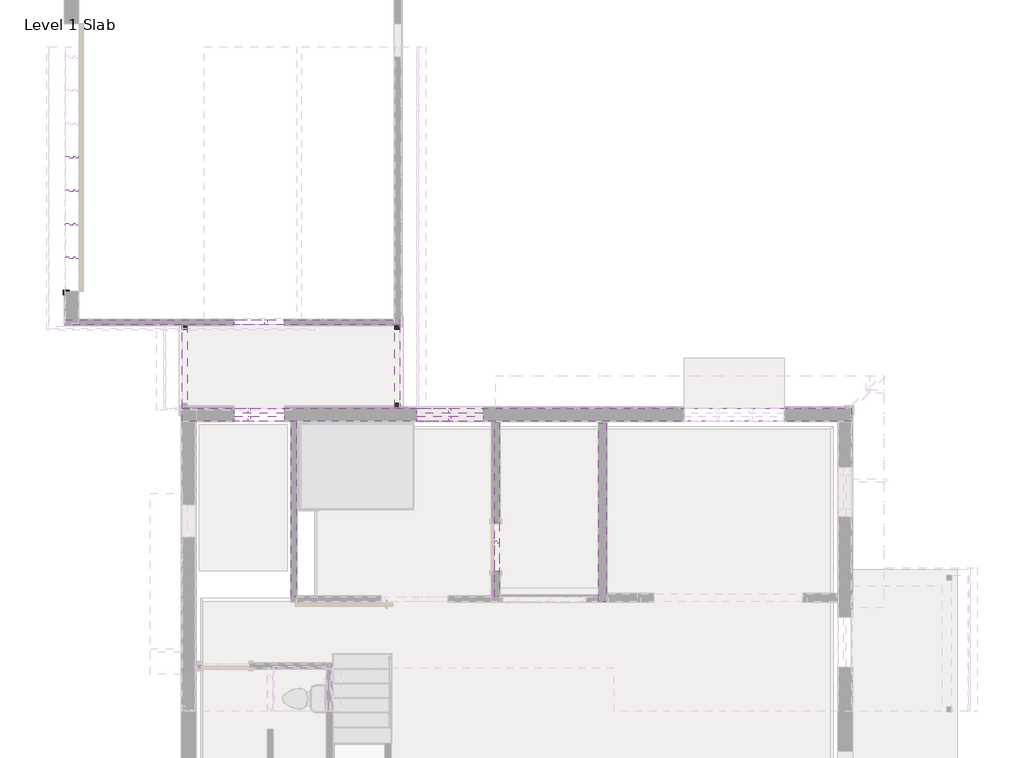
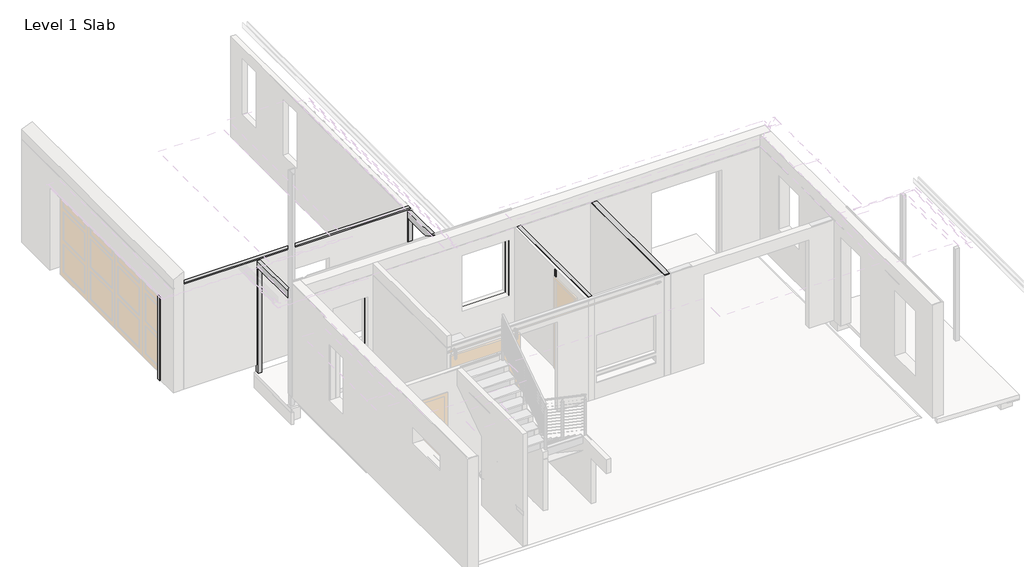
# One storey, part 8 of 11: 106 beams, 12 columns.
"""IFC4 building model written with IfcOpenShell, lengths in millimetres."""

from ifc_helpers import new_model, si_unit, frame, origin, origin_with_axes, place, context, project, spatial, polyline, outline, extrude, transform, mapped, element, save
from components import dimension_lumber_2x4_8b234c55, dimension_lumber_2x4_2dd300de, dimension_lumber_2x4_b7cbdda3, dimension_lumber_2x4_cb0fdfa4, dimension_lumber_2x4_907f3222, dimension_lumber_2x4_2c48d0d1, dimension_lumber_2x4_6da9f3d8, dimension_lumber_2x4_7c62d23e, dimension_lumber_2x4_90506ca0, dimension_lumber_2x4_be2afab2, dimension_lumber_2x4_ebce0c8a, dimension_lumber_2x4_eace18a3, dimension_lumber_2x4_f6b1fdbc, dimension_lumber_2x4_357f3539, dimension_lumber_2x4_c75e3e24, dimension_lumber_2x4_738760fd, dimension_lumber_2x4_565fbc18, dimension_lumber_2x4_e43dbc30, dimension_lumber_2x4_e97b13a8, dimension_lumber_2x4_d2ad68aa, dimension_lumber_2x4_5f5952b7, dimension_lumber_2x6_253154f5, dimension_lumber_2x6_dfa94eba, dimension_lumber_2x6_0ad30bdc, dimension_lumber_2x6_38b7acb6, dimension_lumber_4x6_398ed19f, dimension_lumber_4x6_7f3c720d, dimension_lumber_4x8_cfcc723d, dimension_lumber_4x8_c4d472cb, column_4bd45d62, column_a178d7d2, dimension_lumber_column_1x4_052bb746

model = new_model("IFC4")

# Units and contexts
model_context = context("Model", 3, world=origin())
ifc_project = project(units=[si_unit("LENGTHUNIT", "METRE", prefix="MILLI")], contexts=[model_context])

# Site, building, storey
site = spatial("IfcSite", under=ifc_project)
building = spatial("IfcBuilding", under=site)
storey = spatial("IfcBuildingStorey", under=building, Name="Level 1 Slab", Elevation=0.0)

# Beams
placement = place(None, origin())
element("IfcBeam", 1, ObjectType="Dimension Lumber : 2x10", at=placement, inside=storey, context=model_context, shape_type="SweptSolid", body=[
    extrude(outline(polyline([(-1074.0678637, 3348.5349287), (-1074.0678637, 3113.5849287), (-13266.0678637, 3113.5849287), (-13266.0678637, 3348.5349287), (-1074.0678637, 3348.5349287)])), frame((0.0, 0.0, 2705.1), z_axis=(0.0, 0.0, 1.0), x_axis=(1.0, 0.0, 0.0)), (0.0, 0.0, 1.0), 38.1),
])
element("IfcBeam", 2, ObjectType="Dimension Lumber : 2x2", at=placement, inside=storey, context=model_context, shape_type="SweptSolid", body=[
    extrude(outline(polyline([(-11329.3078637, 3348.5349287), (-11329.3078637, 3310.4349287), (-11367.4078637, 3310.4349287), (-11367.4078637, 3348.5349287), (-11329.3078637, 3348.5349287)])), frame((0.0, 0.0, 38.1), z_axis=(0.0, 0.0, 1.0), x_axis=(1.0, 0.0, 0.0)), (0.0, 0.0, 1.0), 2667.0),
])
element("IfcBeam", 3, ObjectType="Dimension Lumber : 2x4", at=placement, inside=storey, context=model_context, shape_type="SweptSolid", body=[
    extrude(outline(polyline([(38.1, -11367.4078637), (0.0, -11405.5078637), (0.0, -4122.0678637), (38.1, -4160.1678637), (38.1, -11367.4078637)])), frame((0.0, 3259.6349287, 0.0), z_axis=(0.0, 1.0, 0.0), x_axis=(0.0, 0.0, 1.0)), (0.0, 0.0, 1.0), 88.9),
])
element("IfcBeam", 4, ObjectType="Dimension Lumber : 2x4", at=placement, inside=storey, context=model_context, shape_type="SweptSolid", body=[
    extrude(outline(polyline([(2705.1, -11367.4078637), (2705.1, -11405.5078637), (0.0, -11405.5078637), (38.1, -11367.4078637), (2705.1, -11367.4078637)])), frame((0.0, 3259.6349287, 0.0), z_axis=(0.0, 1.0, 0.0), x_axis=(0.0, 0.0, 1.0)), (0.0, 0.0, 1.0), 88.9),
])
element("IfcBeam", 5, ObjectType="Dimension Lumber : 2x4", at=placement, inside=storey, context=model_context, shape_type="SweptSolid", body=[
    extrude(outline(polyline([(-7576.4678637, 3094.5349287), (-7487.5678637, 3094.5349287), (-7487.5678637, -86.8150713), (-7576.4678637, -86.8150713), (-7576.4678637, 3094.5349287)])), frame((0.0, 0.0, 2705.1), z_axis=(0.0, 0.0, 1.0), x_axis=(1.0, 0.0, 0.0)), (0.0, 0.0, 1.0), 38.1),
])
element("IfcBeam", 6, ObjectType="Dimension Lumber : 2x4", at=placement, inside=storey, context=model_context, shape_type="SweptSolid", body=[
    extrude(outline(polyline([(-15399.6678637, 4872.5349287), (-15399.6678637, 4961.4349287), (-9303.6678637, 4961.4349287), (-9303.6678637, 4872.5349287), (-15399.6678637, 4872.5349287)])), frame((0.0, 0.0, 2705.1), z_axis=(0.0, 0.0, 1.0), x_axis=(1.0, 0.0, 0.0)), (0.0, 0.0, 1.0), 38.1),
])
element("IfcBeam", 7, ObjectType="Dimension Lumber : 2x4", at=placement, inside=storey, context=model_context, shape_type="SweptSolid", body=[
    extrude(outline(polyline([(0.0, -12319.9278637), (38.1, -12358.0278637), (38.1, -15221.8678637), (0.0, -15221.8678637), (0.0, -12319.9278637)])), frame((0.0, 4872.5349287, 0.0), z_axis=(0.0, 1.0, 0.0), x_axis=(0.0, 0.0, 1.0)), (0.0, 0.0, 1.0), 88.9),
])
element("IfcBeam", 8, ObjectType="Dimension Lumber : 2x4", at=placement, inside=storey, context=model_context, shape_type="SweptSolid", body=[
    extrude(outline(polyline([(0.0, -9392.5678637), (38.1, -9430.6678637), (38.1, -11367.4278637), (0.0, -11405.5278637), (0.0, -9392.5678637)])), frame((0.0, 4872.5349287, 0.0), z_axis=(0.0, 1.0, 0.0), x_axis=(0.0, 0.0, 1.0)), (0.0, 0.0, 1.0), 88.9),
])
element("IfcBeam", 9, ObjectType="Dimension Lumber : 2x4", at=placement, inside=storey, context=model_context, shape_type="SweptSolid", body=[
    extrude(outline(polyline([(2705.1, -9392.5678637), (2705.1, -9430.6678637), (38.1, -9430.6678637), (0.0, -9392.5678637), (2705.1, -9392.5678637)])), frame((0.0, 4872.5349287, 0.0), z_axis=(0.0, 1.0, 0.0), x_axis=(0.0, 0.0, 1.0)), (0.0, 0.0, 1.0), 88.9),
])
element("IfcBeam", 10, ObjectType="Dimension Lumber : 2x4", at=placement, inside=storey, context=model_context, shape_type="SweptSolid", body=[
    extrude(outline(polyline([(-15221.8678637, 4961.4349287), (-15221.8678637, 4872.5349287), (-15259.9678637, 4872.5349287), (-15259.9678637, 4961.4349287), (-15221.8678637, 4961.4349287)])), origin_with_axes(), (0.0, 0.0, 1.0), 2705.1),
])
element("IfcBeam", 11, ObjectType="Dimension Lumber : 2x4", at=placement, inside=storey, context=model_context, shape_type="SweptSolid", body=[
    extrude(outline(polyline([(2705.1, -11367.4278637), (2705.1, -11405.5278637), (0.0, -11405.5278637), (38.1, -11367.4278637), (2705.1, -11367.4278637)])), frame((0.0, 4872.5349287, 0.0), z_axis=(0.0, 1.0, 0.0), x_axis=(0.0, 0.0, 1.0)), (0.0, 0.0, 1.0), 88.9),
])
element("IfcBeam", 12, ObjectType="Dimension Lumber : 2x4", at=placement, inside=storey, context=model_context, shape_type="SweptSolid", body=[
    extrude(outline(polyline([(2705.1, -12319.9278637), (2705.1, -12358.0278637), (38.1, -12358.0278637), (0.0, -12319.9278637), (2705.1, -12319.9278637)])), frame((0.0, 4872.5349287, 0.0), z_axis=(0.0, 1.0, 0.0), x_axis=(0.0, 0.0, 1.0)), (0.0, 0.0, 1.0), 88.9),
])
element("IfcBeam", 13, ObjectType="Dimension Lumber : 2x4", at=placement, inside=storey, context=model_context, shape_type="SweptSolid", body=[
    extrude(outline(polyline([(-11278.5178637, 241.3037287), (-11189.6178637, 241.3037287), (-11189.6178637, -86.8150713), (-11278.5178637, -86.8150713), (-11278.5178637, 241.3037287)])), origin_with_axes(), (0.0, 0.0, 1.0), 38.1),
])
element("IfcBeam", 14, ObjectType="Dimension Lumber : 2x4", at=placement, inside=storey, context=model_context, shape_type="SweptSolid", body=[
    extrude(outline(polyline([(-15164.7178637, 4999.5349287), (-15253.6178637, 4999.5349287), (-15253.6178637, 5482.1349287), (-15164.7178637, 5482.1349287), (-15164.7178637, 4999.5349287)])), origin_with_axes(), (0.0, 0.0, 1.0), 38.1),
])
element("IfcBeam", 15, ObjectType="Dimension Lumber : 2x4", at=placement, inside=storey, context=model_context, shape_type="SweptSolid", body=[
    extrude(outline(polyline([(38.1, -11189.6178637), (0.0, -11189.6178637), (0.0, -4122.0678637), (38.1, -4160.1678637), (38.1, -11189.6178637)])), frame((0.0, 3113.5849287, 0.0), z_axis=(0.0, 1.0, 0.0), x_axis=(0.0, 0.0, 1.0)), (0.0, 0.0, 1.0), 88.9),
])
element("IfcBeam", 16, ObjectType="Dimension Lumber : 2x4", at=placement, inside=storey, context=model_context, shape_type="SweptSolid", body=[
    extrude(outline(polyline([(-12319.9078637, 3202.4849287), (-12319.9078637, 3113.5849287), (-12358.0078637, 3113.5849287), (-12358.0078637, 3202.4849287), (-12319.9078637, 3202.4849287)])), frame((0.0, 0.0, -274.3398438), z_axis=(0.0, 0.0, 1.0), x_axis=(1.0, 0.0, 0.0)), (0.0, 0.0, 1.0), 2979.4398438),
])
element("IfcBeam", 17, ObjectType="Dimension Lumber : 2x4", at=placement, inside=storey, context=model_context, shape_type="SweptSolid", body=[
    extrude(outline(polyline([(-11367.4078637, 3202.4849287), (-11367.4078637, 3113.5849287), (-11405.5078637, 3113.5849287), (-11405.5078637, 3202.4849287), (-11367.4078637, 3202.4849287)])), frame((0.0, 0.0, -274.3398438), z_axis=(0.0, 0.0, 1.0), x_axis=(1.0, 0.0, 0.0)), (0.0, 0.0, 1.0), 2979.4398438),
])
element("IfcBeam", 18, ObjectType="Dimension Lumber : 2x4", at=placement, inside=storey, context=model_context, shape_type="SweptSolid", body=[
    extrude(outline(polyline([(-7449.4678637, -36.0150713), (-7449.4678637, 52.8849287), (-5677.8178637, 52.8849287), (-5677.8178637, -36.0150713), (-7449.4678637, -36.0150713)])), origin_with_axes(), (0.0, 0.0, 1.0), 38.1),
])
element("IfcBeam", 19, ObjectType="Dimension Lumber : 2x4", at=placement, inside=storey, context=model_context, shape_type="SweptSolid", body=[
    extrude(outline(polyline([(-11278.5178637, 3202.4849287), (-11189.6178637, 3202.4849287), (-11189.6178637, 497.3849287), (-11278.5178637, 497.3849287), (-11278.5178637, 3202.4849287)])), frame((0.0, 0.0, -274.3398438), z_axis=(0.0, 0.0, 1.0), x_axis=(1.0, 0.0, 0.0)), (0.0, 0.0, 1.0), 38.1),
])
element("IfcBeam", 20, ObjectType="Dimension Lumber : 2x4", at=placement, inside=storey, context=model_context, shape_type="SweptSolid", body=[
    extrude(outline(polyline([(-11278.5178637, 497.3849287), (-11189.6178637, 497.3849287), (-11189.6178637, 217.9849287), (-11278.5178637, 217.9849287), (-11278.5178637, 497.3849287)])), frame((0.0, 0.0, -137.16), z_axis=(0.0, 0.0, 1.0), x_axis=(1.0, 0.0, 0.0)), (0.0, 0.0, 1.0), 38.1),
])
element("IfcBeam", 21, ObjectType="Dimension Lumber : 2x4", at=placement, inside=storey, context=model_context, shape_type="SweptSolid", body=[
    extrude(outline(polyline([(-11367.4078637, 3113.5849287), (-11367.4078637, 3202.4849287), (-11278.5178637, 3202.4849287), (-11278.5178637, 3113.5849287), (-11367.4078637, 3113.5849287)])), frame((0.0, 0.0, -274.3398438), z_axis=(0.0, 0.0, 1.0), x_axis=(1.0, 0.0, 0.0)), (0.0, 0.0, 1.0), 38.1),
])
element("IfcBeam", 22, ObjectType="Dimension Lumber : 2x4", at=placement, inside=storey, context=model_context, shape_type="SweptSolid", body=[
    extrude(outline(polyline([(-13037.4678637, 3113.5849287), (-13037.4678637, 3202.4849287), (-12358.0078637, 3202.4849287), (-12358.0078637, 3113.5849287), (-13037.4678637, 3113.5849287)])), frame((0.0, 0.0, -274.3398438), z_axis=(0.0, 0.0, 1.0), x_axis=(1.0, 0.0, 0.0)), (0.0, 0.0, 1.0), 38.1),
])
element("IfcBeam", 23, ObjectType="Dimension Lumber : 2x4", at=placement, inside=storey, context=model_context, shape_type="SweptSolid", body=[
    extrude(outline(polyline([(-15399.6678637, 4872.5349287), (-15399.6678637, 4961.4349287), (-9303.6678637, 4961.4349287), (-9303.6678637, 4872.5349287), (-15399.6678637, 4872.5349287)])), frame((0.0, 0.0, 2743.2), z_axis=(0.0, 0.0, 1.0), x_axis=(1.0, 0.0, 0.0)), (0.0, 0.0, 1.0), 38.1),
])
element("IfcBeam", 24, ObjectType="Dimension Lumber : 2x4", at=placement, inside=storey, context=model_context, shape_type="SweptSolid", body=[
    extrude(outline(polyline([(-7449.4678637, -36.0150713), (-7449.4678637, 52.8849287), (-5677.8178643, 52.8849287), (-5677.8178643, -36.0150713), (-7449.4678637, -36.0150713)])), frame((0.0, 0.0, 393.7), z_axis=(0.0, 0.0, 1.0), x_axis=(1.0, 0.0, 0.0)), (0.0, 0.0, 1.0), 38.1),
])
element("IfcBeam", 25, ObjectType="Dimension Lumber : 2x4", at=placement, inside=storey, context=model_context, shape_type="SweptSolid", body=[
    extrude(outline(polyline([(-5639.7178637, -137.6150713), (-5677.8178637, -137.6150713), (-5677.8178637, 281.4849287), (-5639.7178637, 281.4849287), (-5639.7178637, -137.6150713)])), frame((0.0, 0.0, 368.3), z_axis=(0.0, 0.0, 1.0), x_axis=(1.0, 0.0, 0.0)), (0.0, 0.0, 1.0), 88.9),
])
element("IfcBeam", 26, ObjectType="Dimension Lumber : 2x4", at=placement, inside=storey, context=model_context, shape_type="SweptSolid", body=[
    extrude(outline(polyline([(-7525.6678637, -48.7150713), (-7525.6678637, 281.4849287), (-7487.5678637, 281.4849287), (-7487.5678637, -48.7150713), (-7525.6678637, -48.7150713)])), frame((0.0, 0.0, 368.3), z_axis=(0.0, 0.0, 1.0), x_axis=(1.0, 0.0, 0.0)), (0.0, 0.0, 1.0), 88.9),
])
dimension_lumber_2x4_shape = dimension_lumber_2x4_8b234c55(model_context)
element("IfcBeam", 27, ObjectType="Dimension Lumber : 2x4", at=placement, inside=storey, context=model_context, shape_type="MappedRepresentation", body=[
    mapped(dimension_lumber_2x4_shape, transform((-8389.2578637, 3158.0349287, 2457.45), x_axis=(1.0000000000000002, 0.0, 0.0), y_axis=(0.0, 0.0, -1.0000000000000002), z_axis=(0.0, 1.0000000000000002, 0.0))),
])
element("IfcBeam", 28, ObjectType="Dimension Lumber : 2x4", at=placement, inside=storey, context=model_context, shape_type="MappedRepresentation", body=[
    mapped(dimension_lumber_2x4_shape, transform((-8389.2578637, 3158.0349287, 908.05), x_axis=(1.0, 0.0, 0.0), y_axis=(0.0, 0.0, -1.0), z_axis=(0.0, 1.0, 0.0))),
])
dimension_lumber_2x4_2_shape = dimension_lumber_2x4_2dd300de(model_context)
element("IfcBeam", 29, ObjectType="Dimension Lumber : 2x4", at=placement, inside=storey, context=model_context, shape_type="MappedRepresentation", body=[
    mapped(dimension_lumber_2x4_2_shape, transform((-7532.0178637, 814.8849287, 2470.15), x_axis=(0.0, 1.0, 0.0), y_axis=(0.0, 0.0, -1.0), z_axis=(-1.0, 0.0, 0.0))),
])
dimension_lumber_2x4_3_shape = dimension_lumber_2x4_b7cbdda3(model_context)
element("IfcBeam", 30, ObjectType="Dimension Lumber : 2x4", at=placement, inside=storey, context=model_context, shape_type="MappedRepresentation", body=[
    mapped(dimension_lumber_2x4_3_shape, transform((-10218.0678637, 3304.0849287, 1371.6), x_axis=(0.0, 0.0, 1.0), y_axis=(1.0, 0.0, 0.0), z_axis=(0.0, 1.0, 0.0))),
])
element("IfcBeam", 31, ObjectType="Dimension Lumber : 2x4", at=placement, inside=storey, context=model_context, shape_type="MappedRepresentation", body=[
    mapped(dimension_lumber_2x4_3_shape, transform((-10827.6678637, 3304.0849287, 1371.6), x_axis=(0.0, 0.0, 1.0), y_axis=(1.0, 0.0, 0.0), z_axis=(0.0, 1.0, 0.0))),
])
element("IfcBeam", 32, ObjectType="Dimension Lumber : 2x4", at=placement, inside=storey, context=model_context, shape_type="MappedRepresentation", body=[
    mapped(dimension_lumber_2x4_3_shape, transform((-9589.4178637, 3304.0849287, 1371.6), x_axis=(0.0, 0.0, 1.0), y_axis=(1.0, 0.0, 0.0), z_axis=(0.0, 1.0, 0.0))),
])
element("IfcBeam", 33, ObjectType="Dimension Lumber : 2x4", at=placement, inside=storey, context=model_context, shape_type="MappedRepresentation", body=[
    mapped(dimension_lumber_2x4_3_shape, transform((-7170.0678637, 3304.0849287, 1371.6), x_axis=(0.0, 0.0, 1.0), y_axis=(1.0, 0.0, 0.0), z_axis=(0.0, 1.0, 0.0))),
])
element("IfcBeam", 34, ObjectType="Dimension Lumber : 2x4", at=placement, inside=storey, context=model_context, shape_type="MappedRepresentation", body=[
    mapped(dimension_lumber_2x4_3_shape, transform((-9348.1178637, 7310.9349287, 1371.6), x_axis=(0.0, 0.0, 1.0), y_axis=(0.0, -1.0, 0.0), z_axis=(1.0, 0.0, 0.0))),
])
element("IfcBeam", 35, ObjectType="Dimension Lumber : 2x4", at=placement, inside=storey, context=model_context, shape_type="MappedRepresentation", body=[
    mapped(dimension_lumber_2x4_3_shape, transform((-9348.1178637, 6091.7349287, 1371.6), x_axis=(0.0, 0.0, 1.0), y_axis=(0.0, -1.0, 0.0), z_axis=(1.0, 0.0, 0.0))),
])
element("IfcBeam", 36, ObjectType="Dimension Lumber : 2x4", at=placement, inside=storey, context=model_context, shape_type="MappedRepresentation", body=[
    mapped(dimension_lumber_2x4_3_shape, transform((-9348.1178637, 7920.5349287, 1371.6), x_axis=(0.0, 0.0, 1.0), y_axis=(0.0, -1.0, 0.0), z_axis=(1.0, 0.0, 0.0))),
])
element("IfcBeam", 37, ObjectType="Dimension Lumber : 2x4", at=placement, inside=storey, context=model_context, shape_type="MappedRepresentation", body=[
    mapped(dimension_lumber_2x4_3_shape, transform((-9348.1178637, 6701.3349287, 1371.6), x_axis=(0.0, 0.0, 1.0), y_axis=(0.0, -1.0, 0.0), z_axis=(1.0, 0.0, 0.0))),
])
element("IfcBeam", 38, ObjectType="Dimension Lumber : 2x4", at=placement, inside=storey, context=model_context, shape_type="MappedRepresentation", body=[
    mapped(dimension_lumber_2x4_3_shape, transform((-9348.1178637, 5482.1349287, 1371.6), x_axis=(0.0, 0.0, 1.0), y_axis=(0.0, -1.0, 0.0), z_axis=(1.0, 0.0, 0.0))),
])
element("IfcBeam", 39, ObjectType="Dimension Lumber : 2x4", at=placement, inside=storey, context=model_context, shape_type="MappedRepresentation", body=[
    mapped(dimension_lumber_2x4_3_shape, transform((-9913.2678637, 4916.9849287, 1371.6), x_axis=(0.0, 0.0, 1.0), y_axis=(1.0, 0.0, 0.0), z_axis=(0.0, 1.0, 0.0))),
])
element("IfcBeam", 40, ObjectType="Dimension Lumber : 2x4", at=placement, inside=storey, context=model_context, shape_type="MappedRepresentation", body=[
    mapped(dimension_lumber_2x4_3_shape, transform((-13570.8678637, 4916.9849287, 1371.6), x_axis=(0.0, 0.0, 1.0), y_axis=(1.0, 0.0, 0.0), z_axis=(0.0, 1.0, 0.0))),
])
element("IfcBeam", 41, ObjectType="Dimension Lumber : 2x4", at=placement, inside=storey, context=model_context, shape_type="MappedRepresentation", body=[
    mapped(dimension_lumber_2x4_3_shape, transform((-14790.0678637, 4916.9849287, 1371.6), x_axis=(0.0, 0.0, 1.0), y_axis=(1.0, 0.0, 0.0), z_axis=(0.0, 1.0, 0.0))),
])
element("IfcBeam", 42, ObjectType="Dimension Lumber : 2x4", at=placement, inside=storey, context=model_context, shape_type="MappedRepresentation", body=[
    mapped(dimension_lumber_2x4_3_shape, transform((-14180.4678637, 4916.9849287, 1371.6), x_axis=(0.0, 0.0, 1.0), y_axis=(1.0, 0.0, 0.0), z_axis=(0.0, 1.0, 0.0))),
])
element("IfcBeam", 43, ObjectType="Dimension Lumber : 2x4", at=placement, inside=storey, context=model_context, shape_type="MappedRepresentation", body=[
    mapped(dimension_lumber_2x4_3_shape, transform((-6560.4678637, 3304.0849287, 1371.6), x_axis=(0.0, 0.0, 1.0), y_axis=(1.0, 0.0, 0.0), z_axis=(0.0, 1.0, 0.0))),
])
element("IfcBeam", 44, ObjectType="Dimension Lumber : 2x4", at=placement, inside=storey, context=model_context, shape_type="MappedRepresentation", body=[
    mapped(dimension_lumber_2x4_3_shape, transform((-10522.8678637, 4916.9849287, 1371.6), x_axis=(0.0, 0.0, 1.0), y_axis=(1.0, 0.0, 0.0), z_axis=(0.0, 1.0, 0.0))),
])
element("IfcBeam", 45, ObjectType="Dimension Lumber : 2x4", at=placement, inside=storey, context=model_context, shape_type="MappedRepresentation", body=[
    mapped(dimension_lumber_2x4_3_shape, transform((-10218.0678637, 3158.0349287, 1371.6), x_axis=(0.0, 0.0, 1.0), y_axis=(1.0, 0.0, 0.0), z_axis=(0.0, 1.0, 0.0))),
])
element("IfcBeam", 46, ObjectType="Dimension Lumber : 2x4", at=placement, inside=storey, context=model_context, shape_type="MappedRepresentation", body=[
    mapped(dimension_lumber_2x4_3_shape, transform((-10827.6678637, 3158.0349287, 1371.6), x_axis=(0.0, 0.0, 1.0), y_axis=(1.0, 0.0, 0.0), z_axis=(0.0, 1.0, 0.0))),
])
element("IfcBeam", 47, ObjectType="Dimension Lumber : 2x4", at=placement, inside=storey, context=model_context, shape_type="MappedRepresentation", body=[
    mapped(dimension_lumber_2x4_3_shape, transform((-9611.5178637, 3158.0349287, 1371.6), x_axis=(0.0, 0.0, 1.0), y_axis=(1.0, 0.0, 0.0), z_axis=(0.0, 1.0, 0.0))),
])
element("IfcBeam", 48, ObjectType="Dimension Lumber : 2x4", at=placement, inside=storey, context=model_context, shape_type="MappedRepresentation", body=[
    mapped(dimension_lumber_2x4_3_shape, transform((-7170.0678637, 3158.0349287, 1371.6), x_axis=(0.0, 0.0, 1.0), y_axis=(1.0, 0.0, 0.0), z_axis=(0.0, 1.0, 0.0))),
])
element("IfcBeam", 49, ObjectType="Dimension Lumber : 2x4", at=placement, inside=storey, context=model_context, shape_type="MappedRepresentation", body=[
    mapped(dimension_lumber_2x4_3_shape, transform((-9011.5578637, 3158.0349287, 1371.6), x_axis=(0.0, 0.0, 1.0), y_axis=(1.0, 0.0, 0.0), z_axis=(0.0, 1.0, 0.0))),
])
element("IfcBeam", 50, ObjectType="Dimension Lumber : 2x4", at=placement, inside=storey, context=model_context, shape_type="MappedRepresentation", body=[
    mapped(dimension_lumber_2x4_3_shape, transform((-7766.9578637, 3158.0349287, 1371.6), x_axis=(0.0, 0.0, 1.0), y_axis=(1.0, 0.0, 0.0), z_axis=(0.0, 1.0, 0.0))),
])
element("IfcBeam", 51, ObjectType="Dimension Lumber : 2x4", at=placement, inside=storey, context=model_context, shape_type="MappedRepresentation", body=[
    mapped(dimension_lumber_2x4_3_shape, transform((-6560.4678637, 3158.0349287, 1371.6), x_axis=(0.0, 0.0, 1.0), y_axis=(1.0, 0.0, 0.0), z_axis=(0.0, 1.0, 0.0))),
])
element("IfcBeam", 52, ObjectType="Dimension Lumber : 2x4", at=placement, inside=storey, context=model_context, shape_type="MappedRepresentation", body=[
    mapped(dimension_lumber_2x4_3_shape, transform((-9627.5178637, 3304.0849287, 1371.6), x_axis=(0.0, 0.0, 1.0), y_axis=(1.0, 0.0, 0.0), z_axis=(0.0, 1.0, 0.0))),
])
dimension_lumber_2x4_4_shape = dimension_lumber_2x4_cb0fdfa4(model_context)
element("IfcBeam", 53, ObjectType="Dimension Lumber : 2x4", at=placement, inside=storey, context=model_context, shape_type="MappedRepresentation", body=[
    mapped(dimension_lumber_2x4_4_shape, transform((-15209.1678637, 4980.4849287, 1371.6), x_axis=(0.0, 0.0, 1.0), y_axis=(0.0, 1.0, 0.0), z_axis=(-1.0, 0.0, 0.0))),
])
dimension_lumber_2x4_5_shape = dimension_lumber_2x4_907f3222(model_context)
element("IfcBeam", 54, ObjectType="Dimension Lumber : 2x4", at=placement, inside=storey, context=model_context, shape_type="MappedRepresentation", body=[
    mapped(dimension_lumber_2x4_5_shape, transform((-9348.1178637, 4893.1724287, 1371.6), x_axis=(0.0, 0.0, 1.0), y_axis=(0.0, -1.0, 0.0), z_axis=(1.0, 0.0, 0.0))),
])
dimension_lumber_2x4_6_shape = dimension_lumber_2x4_2c48d0d1(model_context)
element("IfcBeam", 55, ObjectType="Dimension Lumber : 2x4", at=placement, inside=storey, context=model_context, shape_type="MappedRepresentation", body=[
    mapped(dimension_lumber_2x4_6_shape, transform((-8392.3178637, 3304.0849287, 2641.6), x_axis=(0.0, 0.0, 1.0), y_axis=(1.0, 0.0, 0.0), z_axis=(0.0, 1.0, 0.0))),
])
dimension_lumber_2x4_7_shape = dimension_lumber_2x4_6da9f3d8(model_context)
element("IfcBeam", 56, ObjectType="Dimension Lumber : 2x4", at=placement, inside=storey, context=model_context, shape_type="MappedRepresentation", body=[
    mapped(dimension_lumber_2x4_7_shape, transform((-8392.3178637, 3304.0849287, 463.55), x_axis=(0.0, 0.0, 1.0), y_axis=(1.0, 0.0, 0.0), z_axis=(0.0, 1.0, 0.0))),
])
element("IfcBeam", 57, ObjectType="Dimension Lumber : 2x4", at=placement, inside=storey, context=model_context, shape_type="MappedRepresentation", body=[
    mapped(dimension_lumber_2x4_7_shape, transform((-8392.3178637, 3158.0349287, 463.55), x_axis=(0.0, 0.0, 1.0), y_axis=(1.0, 0.0, 0.0), z_axis=(0.0, 1.0, 0.0))),
])
dimension_lumber_2x4_8_shape = dimension_lumber_2x4_7c62d23e(model_context)
element("IfcBeam", 58, ObjectType="Dimension Lumber : 2x4", at=placement, inside=storey, context=model_context, shape_type="MappedRepresentation", body=[
    mapped(dimension_lumber_2x4_8_shape, transform((-8392.3178637, 3158.0349287, 2590.8), x_axis=(0.0, 0.0, 1.0), y_axis=(1.0, 0.0, 0.0), z_axis=(0.0, 1.0, 0.0))),
])
dimension_lumber_2x4_9_shape = dimension_lumber_2x4_90506ca0(model_context)
element("IfcBeam", 59, ObjectType="Dimension Lumber : 2x4", at=placement, inside=storey, context=model_context, shape_type="MappedRepresentation", body=[
    mapped(dimension_lumber_2x4_9_shape, transform((-8389.2578637, 3304.0849287, 908.05), x_axis=(1.0, 0.0, 0.0), y_axis=(0.0, 0.0, -1.0), z_axis=(0.0, 1.0, 0.0))),
])
dimension_lumber_2x4_10_shape = dimension_lumber_2x4_be2afab2(model_context)
element("IfcBeam", 60, ObjectType="Dimension Lumber : 2x4", at=placement, inside=storey, context=model_context, shape_type="MappedRepresentation", body=[
    mapped(dimension_lumber_2x4_10_shape, transform((-7532.0178637, 910.1349287, 2597.15), x_axis=(0.0, 0.0, 1.0), y_axis=(0.0, -1.0, 0.0), z_axis=(1.0, 0.0, 0.0))),
])
dimension_lumber_2x4_11_shape = dimension_lumber_2x4_ebce0c8a(model_context)
element("IfcBeam", 61, ObjectType="Dimension Lumber : 2x4", at=placement, inside=storey, context=model_context, shape_type="MappedRepresentation", body=[
    mapped(dimension_lumber_2x4_11_shape, transform((-11862.7078637, 3158.0349287, 2183.1101562), x_axis=(1.0000000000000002, 0.0, 0.0), y_axis=(0.0, 0.0, -1.0000000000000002), z_axis=(0.0, 1.0000000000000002, 0.0))),
])
dimension_lumber_2x4_12_shape = dimension_lumber_2x4_eace18a3(model_context)
element("IfcBeam", 62, ObjectType="Dimension Lumber : 2x4", at=placement, inside=storey, context=model_context, shape_type="MappedRepresentation", body=[
    mapped(dimension_lumber_2x4_12_shape, transform((-11742.0678637, 4916.9849287, 2509.9883634), x_axis=(0.0, 0.0, 1.0), y_axis=(1.0, 0.0, 0.0), z_axis=(0.0, 1.0, 0.0))),
])
dimension_lumber_2x4_13_shape = dimension_lumber_2x4_f6b1fdbc(model_context)
element("IfcBeam", 63, ObjectType="Dimension Lumber : 2x4", at=placement, inside=storey, context=model_context, shape_type="MappedRepresentation", body=[
    mapped(dimension_lumber_2x4_13_shape, transform((-15209.1678637, 7920.5349287, 2536.825), x_axis=(0.0, 0.0, 1.0), y_axis=(0.0, -1.0, 0.0), z_axis=(1.0, 0.0, 0.0))),
])
element("IfcBeam", 64, ObjectType="Dimension Lumber : 2x4", at=placement, inside=storey, context=model_context, shape_type="MappedRepresentation", body=[
    mapped(dimension_lumber_2x4_13_shape, transform((-15209.1678637, 7310.9349287, 2536.825), x_axis=(0.0, 0.0, 1.0), y_axis=(0.0, -1.0, 0.0), z_axis=(1.0, 0.0, 0.0))),
])
element("IfcBeam", 65, ObjectType="Dimension Lumber : 2x4", at=placement, inside=storey, context=model_context, shape_type="MappedRepresentation", body=[
    mapped(dimension_lumber_2x4_13_shape, transform((-15209.1678637, 6701.3349287, 2536.825), x_axis=(0.0, 0.0, 1.0), y_axis=(0.0, -1.0, 0.0), z_axis=(1.0, 0.0, 0.0))),
])
element("IfcBeam", 66, ObjectType="Dimension Lumber : 2x4", at=placement, inside=storey, context=model_context, shape_type="MappedRepresentation", body=[
    mapped(dimension_lumber_2x4_13_shape, transform((-15209.1678637, 6091.7349287, 2536.825), x_axis=(0.0, 0.0, 1.0), y_axis=(0.0, -1.0, 0.0), z_axis=(1.0, 0.0, 0.0))),
])
dimension_lumber_2x4_14_shape = dimension_lumber_2x4_357f3539(model_context)
element("IfcBeam", 67, ObjectType="Dimension Lumber : 2x4", at=placement, inside=storey, context=model_context, shape_type="MappedRepresentation", body=[
    mapped(dimension_lumber_2x4_14_shape, transform((-11234.0678637, 1503.8599287, 2724.15), x_axis=(0.0, -1.0, 0.0), y_axis=(0.0, 0.0, -1.0), z_axis=(1.0, 0.0, 0.0))),
])
dimension_lumber_2x4_15_shape = dimension_lumber_2x4_c75e3e24(model_context)
element("IfcBeam", 68, ObjectType="Dimension Lumber : 2x4", at=placement, inside=storey, context=model_context, shape_type="MappedRepresentation", body=[
    mapped(dimension_lumber_2x4_15_shape, transform((-11234.0678637, 3094.5349287, 1243.9550781), x_axis=(0.0, 0.0, 1.0), y_axis=(0.0, -1.0, 0.0), z_axis=(1.0, 0.0, 0.0))),
])
dimension_lumber_2x4_16_shape = dimension_lumber_2x4_738760fd(model_context)
element("IfcBeam", 69, ObjectType="Dimension Lumber : 2x4", at=placement, inside=storey, context=model_context, shape_type="MappedRepresentation", body=[
    mapped(dimension_lumber_2x4_16_shape, transform((-11234.0678637, 910.1349287, 1234.4300781), x_axis=(0.0, 0.0, 1.0), y_axis=(0.0, -1.0, 0.0), z_axis=(1.0, 0.0, 0.0))),
])
element("IfcBeam", 70, ObjectType="Dimension Lumber : 2x4", at=placement, inside=storey, context=model_context, shape_type="MappedRepresentation", body=[
    mapped(dimension_lumber_2x4_16_shape, transform((-11234.0678637, 1519.7349287, 1234.4300781), x_axis=(0.0, 0.0, 1.0), y_axis=(0.0, -1.0, 0.0), z_axis=(1.0, 0.0, 0.0))),
])
element("IfcBeam", 71, ObjectType="Dimension Lumber : 2x4", at=placement, inside=storey, context=model_context, shape_type="MappedRepresentation", body=[
    mapped(dimension_lumber_2x4_16_shape, transform((-11234.0678637, 2129.3349287, 1234.4300781), x_axis=(0.0, 0.0, 1.0), y_axis=(0.0, -1.0, 0.0), z_axis=(1.0, 0.0, 0.0))),
])
element("IfcBeam", 72, ObjectType="Dimension Lumber : 2x4", at=placement, inside=storey, context=model_context, shape_type="MappedRepresentation", body=[
    mapped(dimension_lumber_2x4_16_shape, transform((-11234.0678637, 2738.9349287, 1234.4300781), x_axis=(0.0, 0.0, 1.0), y_axis=(0.0, -1.0, 0.0), z_axis=(1.0, 0.0, 0.0))),
])
element("IfcBeam", 73, ObjectType="Dimension Lumber : 2x4", at=placement, inside=storey, context=model_context, shape_type="MappedRepresentation", body=[
    mapped(dimension_lumber_2x4_16_shape, transform((-12656.4678637, 3158.0349287, 1234.4300781), x_axis=(0.0, 0.0, 1.0), y_axis=(1.0, 0.0, 0.0), z_axis=(0.0, 1.0, 0.0))),
])
dimension_lumber_2x4_17_shape = dimension_lumber_2x4_565fbc18(model_context)
element("IfcBeam", 74, ObjectType="Dimension Lumber : 2x4", at=placement, inside=storey, context=model_context, shape_type="MappedRepresentation", body=[
    mapped(dimension_lumber_2x4_17_shape, transform((-12046.8678637, 3304.0849287, 2504.4300781), x_axis=(0.0, 0.0, 1.0), y_axis=(1.0, 0.0, 0.0), z_axis=(0.0, 1.0, 0.0))),
])
dimension_lumber_2x4_18_shape = dimension_lumber_2x4_e43dbc30(model_context)
element("IfcBeam", 75, ObjectType="Dimension Lumber : 2x4", at=placement, inside=storey, context=model_context, shape_type="MappedRepresentation", body=[
    mapped(dimension_lumber_2x4_18_shape, transform((-11234.0678637, 300.5349287, 1303.02), x_axis=(0.0, 0.0, 1.0), y_axis=(0.0, -1.0, 0.0), z_axis=(1.0, 0.0, 0.0))),
])
dimension_lumber_2x4_19_shape = dimension_lumber_2x4_e97b13a8(model_context)
element("IfcBeam", 76, ObjectType="Dimension Lumber : 2x4", at=placement, inside=storey, context=model_context, shape_type="MappedRepresentation", body=[
    mapped(dimension_lumber_2x4_19_shape, transform((-12046.8678637, 3158.0349287, 2453.6300781), x_axis=(0.0, 0.0, 1.0), y_axis=(1.0, 0.0, 0.0), z_axis=(0.0, 1.0, 0.0))),
])
dimension_lumber_2x4_20_shape = dimension_lumber_2x4_d2ad68aa(model_context)
element("IfcBeam", 77, ObjectType="Dimension Lumber : 2x4", at=placement, inside=storey, context=model_context, shape_type="MappedRepresentation", body=[
    mapped(dimension_lumber_2x4_20_shape, transform((-7170.0678637, 8.4349287, 215.9), x_axis=(0.0, 0.0, 1.0), y_axis=(1.0, 0.0, 0.0), z_axis=(0.0, 1.0, 0.0))),
])
element("IfcBeam", 78, ObjectType="Dimension Lumber : 2x4", at=placement, inside=storey, context=model_context, shape_type="MappedRepresentation", body=[
    mapped(dimension_lumber_2x4_20_shape, transform((-5696.8678637, 8.4349287, 215.9), x_axis=(0.0, 0.0, 1.0), y_axis=(1.0, 0.0, 0.0), z_axis=(0.0, 1.0, 0.0))),
])
element("IfcBeam", 79, ObjectType="Dimension Lumber : 2x4", at=placement, inside=storey, context=model_context, shape_type="MappedRepresentation", body=[
    mapped(dimension_lumber_2x4_20_shape, transform((-5884.1928637, 8.4349287, 215.9), x_axis=(0.0, 0.0, 1.0), y_axis=(1.0, 0.0, 0.0), z_axis=(0.0, 1.0, 0.0))),
])
element("IfcBeam", 80, ObjectType="Dimension Lumber : 2x4", at=placement, inside=storey, context=model_context, shape_type="MappedRepresentation", body=[
    mapped(dimension_lumber_2x4_20_shape, transform((-6560.4678637, 8.4349287, 215.9), x_axis=(0.0, 0.0, 1.0), y_axis=(1.0, 0.0, 0.0), z_axis=(0.0, 1.0, 0.0))),
])
dimension_lumber_2x4_21_shape = dimension_lumber_2x4_5f5952b7(model_context)
element("IfcBeam", 81, ObjectType="Dimension Lumber : 2x4", at=placement, inside=storey, context=model_context, shape_type="MappedRepresentation", body=[
    mapped(dimension_lumber_2x4_21_shape, transform((-7468.5178637, 8.4349287, 215.9), x_axis=(0.0, 0.0, 1.0), y_axis=(1.0, 0.0, 0.0), z_axis=(0.0, 1.0, 0.0))),
])
element("IfcBeam", 82, ObjectType="Dimension Lumber : 2x6", at=placement, inside=storey, context=model_context, shape_type="SweptSolid", body=[
    extrude(outline(polyline([(4872.5349287, 0.0), (4910.6349287, 38.1), (5482.1349281, 38.1), (5482.1349281, 0.0), (4872.5349287, 0.0)])), frame((-15399.6678637, 0.0, 0.0), z_axis=(1.0, 0.0, 0.0), x_axis=(0.0, 1.0, 0.0)), (0.0, 0.0, 1.0), 139.7),
])
element("IfcBeam", 83, ObjectType="Dimension Lumber : 2x6", at=placement, inside=storey, context=model_context, shape_type="SweptSolid", body=[
    extrude(outline(polyline([(-7627.2678637, 3075.4849287), (-7487.5678637, 3075.4849287), (-7487.5678637, 1246.6849287), (-7627.2678637, 1246.6849287), (-7627.2678637, 3075.4849287)])), origin_with_axes(), (0.0, 0.0, 1.0), 38.1),
])
element("IfcBeam", 84, ObjectType="Dimension Lumber : 2x6", at=placement, inside=storey, context=model_context, shape_type="SweptSolid", body=[
    extrude(outline(polyline([(-7627.2678637, 344.9849287), (-7487.5678637, 344.9849287), (-7487.5678637, -86.8150713), (-7627.2678637, -86.8150713), (-7627.2678637, 344.9849287)])), origin_with_axes(), (0.0, 0.0, 1.0), 38.1),
])
element("IfcBeam", 85, ObjectType="Dimension Lumber : 2x6", at=placement, inside=storey, context=model_context, shape_type="SweptSolid", body=[
    extrude(outline(polyline([(-5677.8178637, 3075.4849287), (-5538.1178637, 3075.4849287), (-5538.1178637, -175.7150713), (-5677.8178637, -175.7150713), (-5677.8178637, 3075.4849287)])), origin_with_axes(), (0.0, 0.0, 1.0), 38.1),
])
element("IfcBeam", 86, ObjectType="Dimension Lumber : 2x6", at=placement, inside=storey, context=model_context, shape_type="SweptSolid", body=[
    extrude(outline(polyline([(4872.5349287, 2705.1), (4910.6349287, 2705.1), (4910.6349287, 38.1), (4872.5349287, 0.0), (4872.5349287, 2705.1)])), frame((-15399.6678637, 0.0, 0.0), z_axis=(1.0, 0.0, 0.0), x_axis=(0.0, 1.0, 0.0)), (0.0, 0.0, 1.0), 139.7),
])
element("IfcBeam", 87, ObjectType="Dimension Lumber : 2x6", at=placement, inside=storey, context=model_context, shape_type="SweptSolid", body=[
    extrude(outline(polyline([(-7487.5678637, 3075.4849287), (-7627.2678637, 3075.4849287), (-7627.2678637, 3113.5849287), (-7487.5678637, 3113.5849287), (-7487.5678637, 3075.4849287)])), origin_with_axes(), (0.0, 0.0, 1.0), 2724.15),
])
dimension_lumber_2x6_shape = dimension_lumber_2x6_253154f5(model_context)
element("IfcBeam", 88, ObjectType="Dimension Lumber : 2x6", at=placement, inside=storey, context=model_context, shape_type="MappedRepresentation", body=[
    mapped(dimension_lumber_2x6_shape, transform((-7557.4178637, 1519.7349287, 1371.6), x_axis=(0.0, 0.0, 1.0), y_axis=(0.0, -1.0, 0.0), z_axis=(1.0, 0.0, 0.0))),
])
element("IfcBeam", 89, ObjectType="Dimension Lumber : 2x6", at=placement, inside=storey, context=model_context, shape_type="MappedRepresentation", body=[
    mapped(dimension_lumber_2x6_shape, transform((-7557.4178637, 2129.3349287, 1371.6), x_axis=(0.0, 0.0, 1.0), y_axis=(0.0, -1.0, 0.0), z_axis=(1.0, 0.0, 0.0))),
])
element("IfcBeam", 90, ObjectType="Dimension Lumber : 2x6", at=placement, inside=storey, context=model_context, shape_type="MappedRepresentation", body=[
    mapped(dimension_lumber_2x6_shape, transform((-7557.4178637, 2738.9349287, 1371.6), x_axis=(0.0, 0.0, 1.0), y_axis=(0.0, -1.0, 0.0), z_axis=(1.0, 0.0, 0.0))),
])
element("IfcBeam", 91, ObjectType="Dimension Lumber : 2x6", at=placement, inside=storey, context=model_context, shape_type="MappedRepresentation", body=[
    mapped(dimension_lumber_2x6_shape, transform((-5607.9678637, 1519.7349287, 1371.6), x_axis=(0.0, 0.0, 1.0), y_axis=(0.0, -1.0, 0.0), z_axis=(1.0, 0.0, 0.0))),
])
element("IfcBeam", 92, ObjectType="Dimension Lumber : 2x6", at=placement, inside=storey, context=model_context, shape_type="MappedRepresentation", body=[
    mapped(dimension_lumber_2x6_shape, transform((-5607.9678637, 910.1349287, 1371.6), x_axis=(0.0, 0.0, 1.0), y_axis=(0.0, -1.0, 0.0), z_axis=(1.0, 0.0, 0.0))),
])
element("IfcBeam", 93, ObjectType="Dimension Lumber : 2x6", at=placement, inside=storey, context=model_context, shape_type="MappedRepresentation", body=[
    mapped(dimension_lumber_2x6_shape, transform((-5607.9678637, 300.5349287, 1371.6), x_axis=(0.0, 0.0, 1.0), y_axis=(0.0, -1.0, 0.0), z_axis=(1.0, 0.0, 0.0))),
])
element("IfcBeam", 94, ObjectType="Dimension Lumber : 2x6", at=placement, inside=storey, context=model_context, shape_type="MappedRepresentation", body=[
    mapped(dimension_lumber_2x6_shape, transform((-7557.4178637, 300.5349287, 1371.6), x_axis=(0.0, 0.0, 1.0), y_axis=(0.0, -1.0, 0.0), z_axis=(1.0, 0.0, 0.0))),
])
element("IfcBeam", 95, ObjectType="Dimension Lumber : 2x6", at=placement, inside=storey, context=model_context, shape_type="MappedRepresentation", body=[
    mapped(dimension_lumber_2x6_shape, transform((-7582.8178637, 1265.7349287, 1371.6), x_axis=(0.0, 0.0, 1.0), y_axis=(0.0, -1.0, 0.0), z_axis=(1.0, 0.0, 0.0))),
])
dimension_lumber_2x6_2_shape = dimension_lumber_2x6_dfa94eba(model_context)
element("IfcBeam", 96, ObjectType="Dimension Lumber : 2x6", at=placement, inside=storey, context=model_context, shape_type="MappedRepresentation", body=[
    mapped(dimension_lumber_2x6_2_shape, transform((-15329.8178637, 7920.5349287, 2597.15), x_axis=(0.0, 0.0, 1.0), y_axis=(0.0, -1.0, 0.0), z_axis=(1.0, 0.0, 0.0))),
])
element("IfcBeam", 97, ObjectType="Dimension Lumber : 2x6", at=placement, inside=storey, context=model_context, shape_type="MappedRepresentation", body=[
    mapped(dimension_lumber_2x6_2_shape, transform((-15329.8178637, 7310.9349287, 2597.15), x_axis=(0.0, 0.0, 1.0), y_axis=(0.0, -1.0, 0.0), z_axis=(1.0, 0.0, 0.0))),
])
element("IfcBeam", 98, ObjectType="Dimension Lumber : 2x6", at=placement, inside=storey, context=model_context, shape_type="MappedRepresentation", body=[
    mapped(dimension_lumber_2x6_2_shape, transform((-15329.8178637, 6701.3349287, 2597.15), x_axis=(0.0, 0.0, 1.0), y_axis=(0.0, -1.0, 0.0), z_axis=(1.0, 0.0, 0.0))),
])
element("IfcBeam", 99, ObjectType="Dimension Lumber : 2x6", at=placement, inside=storey, context=model_context, shape_type="MappedRepresentation", body=[
    mapped(dimension_lumber_2x6_2_shape, transform((-15329.8178637, 6091.7349287, 2597.15), x_axis=(0.0, 0.0, 1.0), y_axis=(0.0, -1.0, 0.0), z_axis=(1.0, 0.0, 0.0))),
])
dimension_lumber_2x6_3_shape = dimension_lumber_2x6_0ad30bdc(model_context)
element("IfcBeam", 100, ObjectType="Dimension Lumber : 2x6", at=placement, inside=storey, context=model_context, shape_type="MappedRepresentation", body=[
    mapped(dimension_lumber_2x6_3_shape, transform((-5607.9678637, 1468.9349287, 2724.15), x_axis=(0.0, 1.0, 0.0), y_axis=(0.0, 0.0, -1.0), z_axis=(-1.0, 0.0, 0.0))),
])
dimension_lumber_2x6_4_shape = dimension_lumber_2x6_38b7acb6(model_context)
element("IfcBeam", 101, ObjectType="Dimension Lumber : 2x6", at=placement, inside=storey, context=model_context, shape_type="MappedRepresentation", body=[
    mapped(dimension_lumber_2x6_4_shape, transform((-7557.4178637, 364.0349287, 1362.075), x_axis=(0.0, 0.0, 1.0), y_axis=(0.0, -1.0, 0.0), z_axis=(1.0, 0.0, 0.0))),
])
dimension_lumber_4x6_shape = dimension_lumber_4x6_398ed19f(model_context)
element("IfcBeam", 102, ObjectType="Dimension Lumber : 4x6", at=placement, inside=storey, context=model_context, shape_type="MappedRepresentation", body=[
    mapped(dimension_lumber_4x6_shape, transform((-11862.7278637, 4916.9849287, 2245.0267268), x_axis=(-1.0, 0.0, 0.0), y_axis=(0.0, -1.0, 0.0), z_axis=(0.0, 0.0, 1.0))),
])
element("IfcBeam", 103, ObjectType="Dimension Lumber : 4x6", at=placement, inside=storey, context=model_context, shape_type="MappedRepresentation", body=[
    mapped(dimension_lumber_4x6_shape, transform((-11862.7078637, 3304.0849287, 2233.9101563), x_axis=(1.0, 0.0, 0.0), y_axis=(0.0, 1.0, 0.0), z_axis=(0.0, 0.0, 1.0))),
])
dimension_lumber_4x6_2_shape = dimension_lumber_4x6_7f3c720d(model_context)
element("IfcBeam", 104, ObjectType="Dimension Lumber : 4x6", at=placement, inside=storey, context=model_context, shape_type="MappedRepresentation", body=[
    mapped(dimension_lumber_4x6_2_shape, transform((-8389.2578637, 3304.0849287, 2508.25), x_axis=(1.0, 0.0, 0.0), y_axis=(0.0, 1.0, 0.0), z_axis=(0.0, 0.0, 1.0))),
])
dimension_lumber_4x8_shape = dimension_lumber_4x8_cfcc723d(model_context)
element("IfcBeam", 105, ObjectType="Dimension Lumber : 4x8", at=placement, inside=storey, context=model_context, shape_type="MappedRepresentation", body=[
    mapped(dimension_lumber_4x8_shape, transform((-9348.1178637, 4110.5349287, 2647.95), x_axis=(0.0, 1.0, 0.0), y_axis=(-1.0, 0.0, 0.0), z_axis=(0.0, 0.0, 1.0))),
])
dimension_lumber_4x8_2_shape = dimension_lumber_4x8_c4d472cb(model_context)
element("IfcBeam", 106, ObjectType="Dimension Lumber : 4x8", at=placement, inside=storey, context=model_context, shape_type="MappedRepresentation", body=[
    mapped(dimension_lumber_4x8_2_shape, transform((-13221.6178637, 4110.5349287, 2647.95), x_axis=(0.0, 1.0, 0.0), y_axis=(-1.0, 0.0, 0.0), z_axis=(0.0, 0.0, 1.0))),
])

# Columns
element("IfcColumn", 107, ObjectType="Trus Joist - TimberStrand LSL - Post Column : TimberStrand® 1.3E – 3 1/2 x 3 1/2”", at=placement, inside=storey, context=model_context, shape_type="SweptSolid", body=[
    extrude(outline(polyline([(-12872.3678637, 4961.4349287), (-12872.3678637, 4872.5349287), (-12961.2678637, 4872.5349287), (-12961.2678637, 4961.4349287), (-12872.3678637, 4961.4349287)])), frame((0.0, 0.0, 38.1), z_axis=(0.0, 0.0, 1.0), x_axis=(1.0, 0.0, 0.0)), (0.0, 0.0, 1.0), 2667.0),
])
element("IfcColumn", 108, ObjectType="Trus Joist - TimberStrand LSL - Post Column : TimberStrand® 1.3E – 3 1/2 x 5 1/2”", at=placement, inside=storey, context=model_context, shape_type="SweptSolid", body=[
    extrude(outline(polyline([(-15259.9678637, 5393.2349287), (-15399.6678637, 5393.2349287), (-15399.6678637, 5482.1349287), (-15259.9678637, 5482.1349287), (-15259.9678637, 5393.2349287)])), frame((0.0, 0.0, 38.1), z_axis=(0.0, 0.0, 1.0), x_axis=(1.0, 0.0, 0.0)), (0.0, 0.0, 1.0), 2667.0),
])
element("IfcColumn", 109, ObjectType="Trus Joist - TimberStrand LSL - Post Column : TimberStrand® 1.3E – 3 1/2 x 3 1/2”", at=placement, inside=storey, context=model_context, shape_type="SweptSolid", body=[
    extrude(outline(polyline([(-11088.0178637, 4961.4349287), (-11088.0178637, 4872.5349287), (-11176.9178637, 4872.5349287), (-11176.9178637, 4961.4349287), (-11088.0178637, 4961.4349287)])), frame((0.0, 0.0, 38.1), z_axis=(0.0, 0.0, 1.0), x_axis=(1.0, 0.0, 0.0)), (0.0, 0.0, 1.0), 2667.0),
])
element("IfcColumn", 110, ObjectType="Trus Joist - TimberStrand LSL - Post Column : TimberStrand® 1.3E – 3 1/2 x 3 1/2”", at=placement, inside=storey, context=model_context, shape_type="SweptSolid", body=[
    extrude(outline(polyline([(-15164.7178637, 5393.2349287), (-15253.6178637, 5393.2349287), (-15253.6178637, 5482.1349287), (-15164.7178637, 5482.1349287), (-15164.7178637, 5393.2349287)])), frame((0.0, 0.0, 38.1), z_axis=(0.0, 0.0, 1.0), x_axis=(1.0, 0.0, 0.0)), (0.0, 0.0, 1.0), 2667.0),
])
column_shape = column_4bd45d62(model_context)
element("IfcColumn", 111, ObjectType="Trus Joist - TimberStrand LSL - Post Column : TimberStrand® 1.3E – 3 1/2 x 3 1/2”", at=placement, inside=storey, context=model_context, shape_type="MappedRepresentation", body=[
    mapped(column_shape, transform((-11234.0678637, 3304.0849287, 0.0), x_axis=(1.0, 0.0, 0.0), y_axis=(0.0, 1.0, 0.0), z_axis=(0.0, 0.0, 1.0))),
])
element("IfcColumn", 112, ObjectType="Trus Joist - TimberStrand LSL - Post Column : TimberStrand® 1.3E – 3 1/2 x 3 1/2”", at=placement, inside=storey, context=model_context, shape_type="MappedRepresentation", body=[
    mapped(column_shape, transform((-9036.9678637, 3304.0849287, 0.0), x_axis=(1.0, 0.0, 0.0), y_axis=(0.0, 1.0, 0.0), z_axis=(0.0, 0.0, 1.0))),
])
element("IfcColumn", 113, ObjectType="Trus Joist - TimberStrand LSL - Post Column : TimberStrand® 1.3E – 3 1/2 x 3 1/2”", at=placement, inside=storey, context=model_context, shape_type="MappedRepresentation", body=[
    mapped(column_shape, transform((-7741.5678637, 3304.0849287, 0.0), x_axis=(1.0, 0.0, 0.0), y_axis=(0.0, 1.0, 0.0), z_axis=(0.0, 0.0, 1.0))),
])
column_2_shape = column_a178d7d2(model_context)
element("IfcColumn", 114, ObjectType="Trus Joist - TimberStrand LSL - Post Column : TimberStrand® 1.3E – 3 1/2 x 3 1/2”", at=placement, inside=storey, context=model_context, shape_type="MappedRepresentation", body=[
    mapped(column_2_shape, transform((-13221.6178637, 4828.0849287, 0.0), x_axis=(1.0, 0.0, 0.0), y_axis=(0.0, 1.0, 0.0), z_axis=(0.0, 0.0, 1.0))),
])
element("IfcColumn", 115, ObjectType="Trus Joist - TimberStrand LSL - Post Column : TimberStrand® 1.3E – 3 1/2 x 3 1/2”", at=placement, inside=storey, context=model_context, shape_type="MappedRepresentation", body=[
    mapped(column_2_shape, transform((-9348.1178637, 3392.9849287, 0.0), x_axis=(1.0, 0.0, 0.0), y_axis=(0.0, 1.0, 0.0), z_axis=(0.0, 0.0, 1.0))),
])
element("IfcColumn", 116, ObjectType="Trus Joist - TimberStrand LSL - Post Column : TimberStrand® 1.3E – 3 1/2 x 3 1/2”", at=placement, inside=storey, context=model_context, shape_type="MappedRepresentation", body=[
    mapped(column_2_shape, transform((-9348.1178637, 4828.0849287, 0.0), x_axis=(1.0, 0.0, 0.0), y_axis=(0.0, 1.0, 0.0), z_axis=(0.0, 0.0, 1.0))),
])
dimension_lumber_column_1x4_shape = dimension_lumber_column_1x4_052bb746(model_context)
element("IfcColumn", 117, ObjectType="Dimension Lumber-Column : 1x4", at=placement, inside=storey, context=model_context, shape_type="MappedRepresentation", body=[
    mapped(dimension_lumber_column_1x4_shape, transform((-15377.4428637, 5491.6599287, 0.0), x_axis=(0.0, -1.0000000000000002, 0.0), y_axis=(1.0000000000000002, 0.0, 0.0), z_axis=(0.0, 0.0, 1.0))),
])
element("IfcColumn", 118, ObjectType="Dimension Lumber-Column : 1x4", at=placement, inside=storey, context=model_context, shape_type="MappedRepresentation", body=[
    mapped(dimension_lumber_column_1x4_shape, transform((-15431.4178637, 5456.7349287, 0.0), x_axis=(1.0, 0.0, 0.0), y_axis=(0.0, 1.0, 0.0), z_axis=(0.0, 0.0, 1.0))),
])

save(model, "model.ifc")
